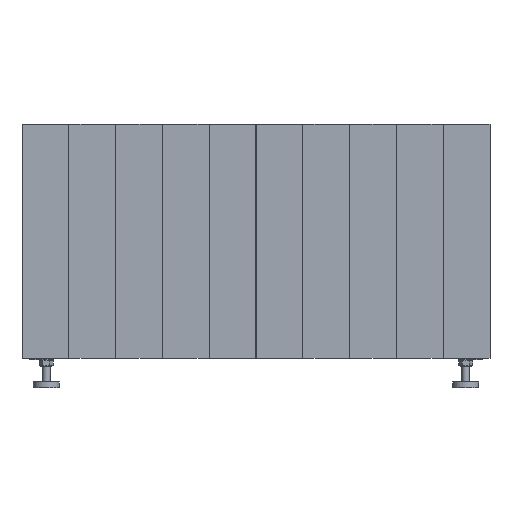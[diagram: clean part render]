
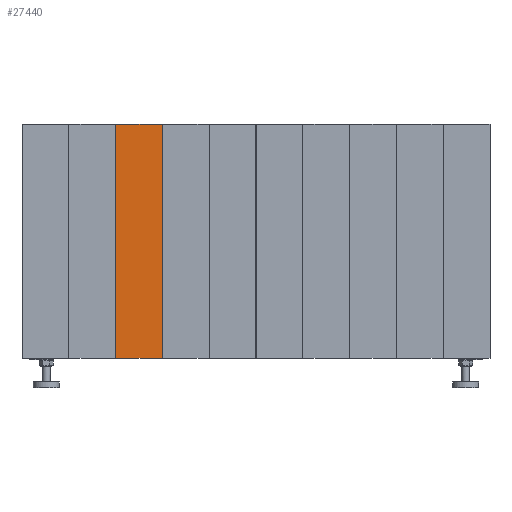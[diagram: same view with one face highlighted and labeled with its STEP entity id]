
A CAD part, front view. The second image highlights one B-rep face of the part: STEP entity #27440.
In plain terms, the highlighted planar face has unit normal (0, -1, 0).
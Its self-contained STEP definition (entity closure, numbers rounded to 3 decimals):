
#966=FACE_OUTER_BOUND('',#2674,.T.);
#2674=EDGE_LOOP('',(#18093,#18094,#18095,#18096));
#4704=LINE('',#39732,#7990);
#4708=LINE('',#39740,#7994);
#4714=LINE('',#39751,#8000);
#4715=LINE('',#39753,#8001);
#7990=VECTOR('',#32533,10.);
#7994=VECTOR('',#32539,10.);
#8000=VECTOR('',#32549,10.);
#8001=VECTOR('',#32552,10.);
#11117=VERTEX_POINT('',#39730);
#11118=VERTEX_POINT('',#39731);
#11121=VERTEX_POINT('',#39739);
#11124=VERTEX_POINT('',#39749);
#13736=EDGE_CURVE('',#11117,#11118,#4704,.T.);
#13740=EDGE_CURVE('',#11121,#11118,#4708,.T.);
#13746=EDGE_CURVE('',#11117,#11124,#4714,.T.);
#13747=EDGE_CURVE('',#11121,#11124,#4715,.T.);
#18093=ORIENTED_EDGE('',*,*,#13746,.T.);
#18094=ORIENTED_EDGE('',*,*,#13747,.F.);
#18095=ORIENTED_EDGE('',*,*,#13740,.T.);
#18096=ORIENTED_EDGE('',*,*,#13736,.F.);
#23821=PLANE('',#29495);
#27440=ADVANCED_FACE('',(#966),#23821,.T.);
#29495=AXIS2_PLACEMENT_3D('',#39752,#32550,#32551);
#32533=DIRECTION('',(-1.,0.,0.));
#32539=DIRECTION('',(0.,0.,-1.));
#32549=DIRECTION('',(0.,0.,1.));
#32550=DIRECTION('center_axis',(0.,-1.,0.));
#32551=DIRECTION('ref_axis',(1.,0.,0.));
#32552=DIRECTION('',(1.,0.,0.));
#39730=CARTESIAN_POINT('',(-100.,-250.,-125.));
#39731=CARTESIAN_POINT('',(-149.999,-250.,-125.));
#39732=CARTESIAN_POINT('',(-149.999,-250.,-125.));
#39739=CARTESIAN_POINT('',(-149.999,-250.,125.));
#39740=CARTESIAN_POINT('',(-149.999,-250.,0.));
#39749=CARTESIAN_POINT('',(-100.,-250.,125.));
#39751=CARTESIAN_POINT('',(-100.,-250.,0.));
#39752=CARTESIAN_POINT('Origin',(-149.999,-250.,0.));
#39753=CARTESIAN_POINT('',(-149.999,-250.,125.));
